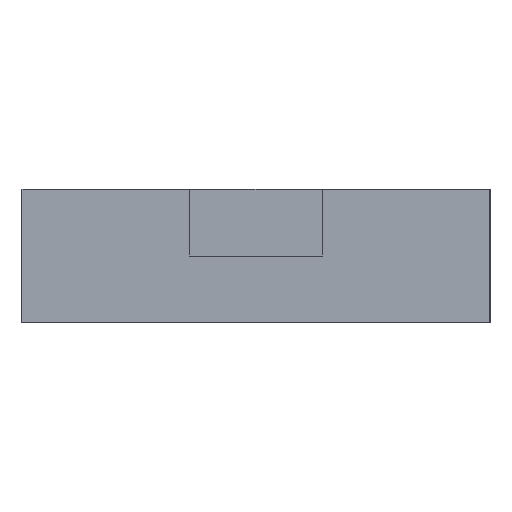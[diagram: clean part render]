
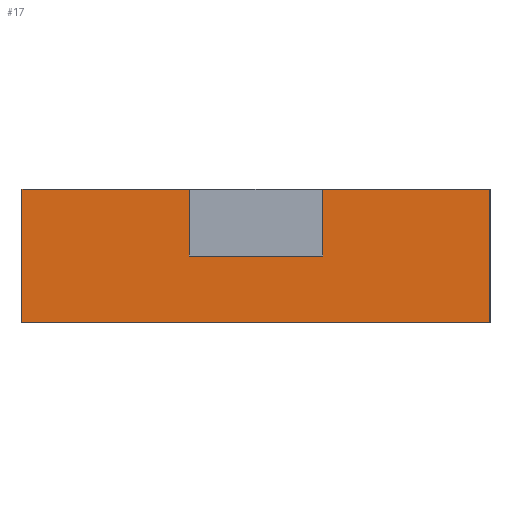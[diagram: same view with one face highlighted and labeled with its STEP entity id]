
A CAD part, left-side view. The second image highlights one B-rep face of the part: STEP entity #17.
In plain terms, the highlighted planar face has unit normal (-1, 0, 0).
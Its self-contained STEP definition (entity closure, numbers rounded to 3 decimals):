
#17 = ADVANCED_FACE('',(#18),#32,.F.);
#18 = FACE_BOUND('',#19,.F.);
#19 = EDGE_LOOP('',(#20,#55,#83,#111,#139,#167,#193,#219));
#20 = ORIENTED_EDGE('',*,*,#21,.F.);
#21 = EDGE_CURVE('',#22,#24,#26,.T.);
#22 = VERTEX_POINT('',#23);
#23 = CARTESIAN_POINT('',(-38.,84.,10.));
#24 = VERTEX_POINT('',#25);
#25 = CARTESIAN_POINT('',(-38.,99.,10.));
#26 = SURFACE_CURVE('',#27,(#31,#43),.PCURVE_S1.);
#27 = LINE('',#28,#29);
#28 = CARTESIAN_POINT('',(-38.,84.,10.));
#29 = VECTOR('',#30,1.);
#30 = DIRECTION('',(0.,1.,0.));
#31 = PCURVE('',#32,#37);
#32 = PLANE('',#33);
#33 = AXIS2_PLACEMENT_3D('',#34,#35,#36);
#34 = CARTESIAN_POINT('',(-38.,84.,-2.));
#35 = DIRECTION('',(1.,0.,0.));
#36 = DIRECTION('',(0.,0.,1.));
#37 = DEFINITIONAL_REPRESENTATION('',(#38),#42);
#38 = LINE('',#39,#40);
#39 = CARTESIAN_POINT('',(12.,0.));
#40 = VECTOR('',#41,1.);
#41 = DIRECTION('',(0.,-1.));
#42 = ( GEOMETRIC_REPRESENTATION_CONTEXT(2) 
PARAMETRIC_REPRESENTATION_CONTEXT() REPRESENTATION_CONTEXT('2D SPACE',''
  ) );
#43 = PCURVE('',#44,#49);
#44 = PLANE('',#45);
#45 = AXIS2_PLACEMENT_3D('',#46,#47,#48);
#46 = CARTESIAN_POINT('',(-38.,84.,10.));
#47 = DIRECTION('',(0.,0.,1.));
#48 = DIRECTION('',(1.,0.,0.));
#49 = DEFINITIONAL_REPRESENTATION('',(#50),#54);
#50 = LINE('',#51,#52);
#51 = CARTESIAN_POINT('',(0.,0.));
#52 = VECTOR('',#53,1.);
#53 = DIRECTION('',(0.,1.));
#54 = ( GEOMETRIC_REPRESENTATION_CONTEXT(2) 
PARAMETRIC_REPRESENTATION_CONTEXT() REPRESENTATION_CONTEXT('2D SPACE',''
  ) );
#55 = ORIENTED_EDGE('',*,*,#56,.F.);
#56 = EDGE_CURVE('',#57,#22,#59,.T.);
#57 = VERTEX_POINT('',#58);
#58 = CARTESIAN_POINT('',(-38.,84.,-2.));
#59 = SURFACE_CURVE('',#60,(#64,#71),.PCURVE_S1.);
#60 = LINE('',#61,#62);
#61 = CARTESIAN_POINT('',(-38.,84.,-2.));
#62 = VECTOR('',#63,1.);
#63 = DIRECTION('',(0.,0.,1.));
#64 = PCURVE('',#32,#65);
#65 = DEFINITIONAL_REPRESENTATION('',(#66),#70);
#66 = LINE('',#67,#68);
#67 = CARTESIAN_POINT('',(0.,0.));
#68 = VECTOR('',#69,1.);
#69 = DIRECTION('',(1.,0.));
#70 = ( GEOMETRIC_REPRESENTATION_CONTEXT(2) 
PARAMETRIC_REPRESENTATION_CONTEXT() REPRESENTATION_CONTEXT('2D SPACE',''
  ) );
#71 = PCURVE('',#72,#77);
#72 = PLANE('',#73);
#73 = AXIS2_PLACEMENT_3D('',#74,#75,#76);
#74 = CARTESIAN_POINT('',(-38.,84.,-2.));
#75 = DIRECTION('',(0.,1.,0.));
#76 = DIRECTION('',(0.,0.,1.));
#77 = DEFINITIONAL_REPRESENTATION('',(#78),#82);
#78 = LINE('',#79,#80);
#79 = CARTESIAN_POINT('',(0.,0.));
#80 = VECTOR('',#81,1.);
#81 = DIRECTION('',(1.,0.));
#82 = ( GEOMETRIC_REPRESENTATION_CONTEXT(2) 
PARAMETRIC_REPRESENTATION_CONTEXT() REPRESENTATION_CONTEXT('2D SPACE',''
  ) );
#83 = ORIENTED_EDGE('',*,*,#84,.T.);
#84 = EDGE_CURVE('',#57,#85,#87,.T.);
#85 = VERTEX_POINT('',#86);
#86 = CARTESIAN_POINT('',(-38.,126.,-2.));
#87 = SURFACE_CURVE('',#88,(#92,#99),.PCURVE_S1.);
#88 = LINE('',#89,#90);
#89 = CARTESIAN_POINT('',(-38.,84.,-2.));
#90 = VECTOR('',#91,1.);
#91 = DIRECTION('',(0.,1.,0.));
#92 = PCURVE('',#32,#93);
#93 = DEFINITIONAL_REPRESENTATION('',(#94),#98);
#94 = LINE('',#95,#96);
#95 = CARTESIAN_POINT('',(0.,0.));
#96 = VECTOR('',#97,1.);
#97 = DIRECTION('',(0.,-1.));
#98 = ( GEOMETRIC_REPRESENTATION_CONTEXT(2) 
PARAMETRIC_REPRESENTATION_CONTEXT() REPRESENTATION_CONTEXT('2D SPACE',''
  ) );
#99 = PCURVE('',#100,#105);
#100 = PLANE('',#101);
#101 = AXIS2_PLACEMENT_3D('',#102,#103,#104);
#102 = CARTESIAN_POINT('',(-38.,84.,-2.));
#103 = DIRECTION('',(0.,0.,1.));
#104 = DIRECTION('',(1.,0.,0.));
#105 = DEFINITIONAL_REPRESENTATION('',(#106),#110);
#106 = LINE('',#107,#108);
#107 = CARTESIAN_POINT('',(0.,0.));
#108 = VECTOR('',#109,1.);
#109 = DIRECTION('',(0.,1.));
#110 = ( GEOMETRIC_REPRESENTATION_CONTEXT(2) 
PARAMETRIC_REPRESENTATION_CONTEXT() REPRESENTATION_CONTEXT('2D SPACE',''
  ) );
#111 = ORIENTED_EDGE('',*,*,#112,.T.);
#112 = EDGE_CURVE('',#85,#113,#115,.T.);
#113 = VERTEX_POINT('',#114);
#114 = CARTESIAN_POINT('',(-38.,126.,10.));
#115 = SURFACE_CURVE('',#116,(#120,#127),.PCURVE_S1.);
#116 = LINE('',#117,#118);
#117 = CARTESIAN_POINT('',(-38.,126.,-2.));
#118 = VECTOR('',#119,1.);
#119 = DIRECTION('',(0.,0.,1.));
#120 = PCURVE('',#32,#121);
#121 = DEFINITIONAL_REPRESENTATION('',(#122),#126);
#122 = LINE('',#123,#124);
#123 = CARTESIAN_POINT('',(0.,-42.));
#124 = VECTOR('',#125,1.);
#125 = DIRECTION('',(1.,0.));
#126 = ( GEOMETRIC_REPRESENTATION_CONTEXT(2) 
PARAMETRIC_REPRESENTATION_CONTEXT() REPRESENTATION_CONTEXT('2D SPACE',''
  ) );
#127 = PCURVE('',#128,#133);
#128 = PLANE('',#129);
#129 = AXIS2_PLACEMENT_3D('',#130,#131,#132);
#130 = CARTESIAN_POINT('',(-38.,126.,-2.));
#131 = DIRECTION('',(0.,1.,0.));
#132 = DIRECTION('',(0.,0.,1.));
#133 = DEFINITIONAL_REPRESENTATION('',(#134),#138);
#134 = LINE('',#135,#136);
#135 = CARTESIAN_POINT('',(0.,0.));
#136 = VECTOR('',#137,1.);
#137 = DIRECTION('',(1.,0.));
#138 = ( GEOMETRIC_REPRESENTATION_CONTEXT(2) 
PARAMETRIC_REPRESENTATION_CONTEXT() REPRESENTATION_CONTEXT('2D SPACE',''
  ) );
#139 = ORIENTED_EDGE('',*,*,#140,.F.);
#140 = EDGE_CURVE('',#141,#113,#143,.T.);
#141 = VERTEX_POINT('',#142);
#142 = CARTESIAN_POINT('',(-38.,111.,10.));
#143 = SURFACE_CURVE('',#144,(#148,#155),.PCURVE_S1.);
#144 = LINE('',#145,#146);
#145 = CARTESIAN_POINT('',(-38.,84.,10.));
#146 = VECTOR('',#147,1.);
#147 = DIRECTION('',(0.,1.,0.));
#148 = PCURVE('',#32,#149);
#149 = DEFINITIONAL_REPRESENTATION('',(#150),#154);
#150 = LINE('',#151,#152);
#151 = CARTESIAN_POINT('',(12.,0.));
#152 = VECTOR('',#153,1.);
#153 = DIRECTION('',(0.,-1.));
#154 = ( GEOMETRIC_REPRESENTATION_CONTEXT(2) 
PARAMETRIC_REPRESENTATION_CONTEXT() REPRESENTATION_CONTEXT('2D SPACE',''
  ) );
#155 = PCURVE('',#156,#161);
#156 = PLANE('',#157);
#157 = AXIS2_PLACEMENT_3D('',#158,#159,#160);
#158 = CARTESIAN_POINT('',(-38.,84.,10.));
#159 = DIRECTION('',(0.,0.,1.));
#160 = DIRECTION('',(1.,0.,0.));
#161 = DEFINITIONAL_REPRESENTATION('',(#162),#166);
#162 = LINE('',#163,#164);
#163 = CARTESIAN_POINT('',(0.,0.));
#164 = VECTOR('',#165,1.);
#165 = DIRECTION('',(0.,1.));
#166 = ( GEOMETRIC_REPRESENTATION_CONTEXT(2) 
PARAMETRIC_REPRESENTATION_CONTEXT() REPRESENTATION_CONTEXT('2D SPACE',''
  ) );
#167 = ORIENTED_EDGE('',*,*,#168,.F.);
#168 = EDGE_CURVE('',#169,#141,#171,.T.);
#169 = VERTEX_POINT('',#170);
#170 = CARTESIAN_POINT('',(-38.,111.,4.));
#171 = SURFACE_CURVE('',#172,(#176,#182),.PCURVE_S1.);
#172 = LINE('',#173,#174);
#173 = CARTESIAN_POINT('',(-38.,111.,1.));
#174 = VECTOR('',#175,1.);
#175 = DIRECTION('',(0.,0.,1.));
#176 = PCURVE('',#32,#177);
#177 = DEFINITIONAL_REPRESENTATION('',(#178),#181);
#178 = B_SPLINE_CURVE_WITH_KNOTS('',1,(#179,#180),.UNSPECIFIED.,.F.,.F.,
  (2,2),(3.,9.),.PIECEWISE_BEZIER_KNOTS.);
#179 = CARTESIAN_POINT('',(6.,-27.));
#180 = CARTESIAN_POINT('',(12.,-27.));
#181 = ( GEOMETRIC_REPRESENTATION_CONTEXT(2) 
PARAMETRIC_REPRESENTATION_CONTEXT() REPRESENTATION_CONTEXT('2D SPACE',''
  ) );
#182 = PCURVE('',#183,#188);
#183 = PLANE('',#184);
#184 = AXIS2_PLACEMENT_3D('',#185,#186,#187);
#185 = CARTESIAN_POINT('',(-43.,111.,4.));
#186 = DIRECTION('',(0.,1.,0.));
#187 = DIRECTION('',(0.,0.,1.));
#188 = DEFINITIONAL_REPRESENTATION('',(#189),#192);
#189 = B_SPLINE_CURVE_WITH_KNOTS('',1,(#190,#191),.UNSPECIFIED.,.F.,.F.,
  (2,2),(3.,9.),.PIECEWISE_BEZIER_KNOTS.);
#190 = CARTESIAN_POINT('',(0.,5.));
#191 = CARTESIAN_POINT('',(6.,5.));
#192 = ( GEOMETRIC_REPRESENTATION_CONTEXT(2) 
PARAMETRIC_REPRESENTATION_CONTEXT() REPRESENTATION_CONTEXT('2D SPACE',''
  ) );
#193 = ORIENTED_EDGE('',*,*,#194,.T.);
#194 = EDGE_CURVE('',#169,#195,#197,.T.);
#195 = VERTEX_POINT('',#196);
#196 = CARTESIAN_POINT('',(-38.,99.,4.));
#197 = SURFACE_CURVE('',#198,(#202,#208),.PCURVE_S1.);
#198 = LINE('',#199,#200);
#199 = CARTESIAN_POINT('',(-38.,91.5,4.));
#200 = VECTOR('',#201,1.);
#201 = DIRECTION('',(0.,-1.,0.));
#202 = PCURVE('',#32,#203);
#203 = DEFINITIONAL_REPRESENTATION('',(#204),#207);
#204 = B_SPLINE_CURVE_WITH_KNOTS('',1,(#205,#206),.UNSPECIFIED.,.F.,.F.,
  (2,2),(-19.5,-7.5),.PIECEWISE_BEZIER_KNOTS.);
#205 = CARTESIAN_POINT('',(6.,-27.));
#206 = CARTESIAN_POINT('',(6.,-15.));
#207 = ( GEOMETRIC_REPRESENTATION_CONTEXT(2) 
PARAMETRIC_REPRESENTATION_CONTEXT() REPRESENTATION_CONTEXT('2D SPACE',''
  ) );
#208 = PCURVE('',#209,#214);
#209 = PLANE('',#210);
#210 = AXIS2_PLACEMENT_3D('',#211,#212,#213);
#211 = CARTESIAN_POINT('',(-43.,99.,4.));
#212 = DIRECTION('',(0.,0.,1.));
#213 = DIRECTION('',(1.,0.,0.));
#214 = DEFINITIONAL_REPRESENTATION('',(#215),#218);
#215 = B_SPLINE_CURVE_WITH_KNOTS('',1,(#216,#217),.UNSPECIFIED.,.F.,.F.,
  (2,2),(-19.5,-7.5),.PIECEWISE_BEZIER_KNOTS.);
#216 = CARTESIAN_POINT('',(5.,12.));
#217 = CARTESIAN_POINT('',(5.,0.));
#218 = ( GEOMETRIC_REPRESENTATION_CONTEXT(2) 
PARAMETRIC_REPRESENTATION_CONTEXT() REPRESENTATION_CONTEXT('2D SPACE',''
  ) );
#219 = ORIENTED_EDGE('',*,*,#220,.T.);
#220 = EDGE_CURVE('',#195,#24,#221,.T.);
#221 = SURFACE_CURVE('',#222,(#226,#232),.PCURVE_S1.);
#222 = LINE('',#223,#224);
#223 = CARTESIAN_POINT('',(-38.,99.,1.));
#224 = VECTOR('',#225,1.);
#225 = DIRECTION('',(0.,0.,1.));
#226 = PCURVE('',#32,#227);
#227 = DEFINITIONAL_REPRESENTATION('',(#228),#231);
#228 = B_SPLINE_CURVE_WITH_KNOTS('',1,(#229,#230),.UNSPECIFIED.,.F.,.F.,
  (2,2),(3.,9.),.PIECEWISE_BEZIER_KNOTS.);
#229 = CARTESIAN_POINT('',(6.,-15.));
#230 = CARTESIAN_POINT('',(12.,-15.));
#231 = ( GEOMETRIC_REPRESENTATION_CONTEXT(2) 
PARAMETRIC_REPRESENTATION_CONTEXT() REPRESENTATION_CONTEXT('2D SPACE',''
  ) );
#232 = PCURVE('',#233,#238);
#233 = PLANE('',#234);
#234 = AXIS2_PLACEMENT_3D('',#235,#236,#237);
#235 = CARTESIAN_POINT('',(-43.,99.,4.));
#236 = DIRECTION('',(0.,1.,0.));
#237 = DIRECTION('',(0.,0.,1.));
#238 = DEFINITIONAL_REPRESENTATION('',(#239),#242);
#239 = B_SPLINE_CURVE_WITH_KNOTS('',1,(#240,#241),.UNSPECIFIED.,.F.,.F.,
  (2,2),(3.,9.),.PIECEWISE_BEZIER_KNOTS.);
#240 = CARTESIAN_POINT('',(0.,5.));
#241 = CARTESIAN_POINT('',(6.,5.));
#242 = ( GEOMETRIC_REPRESENTATION_CONTEXT(2) 
PARAMETRIC_REPRESENTATION_CONTEXT() REPRESENTATION_CONTEXT('2D SPACE',''
  ) );
